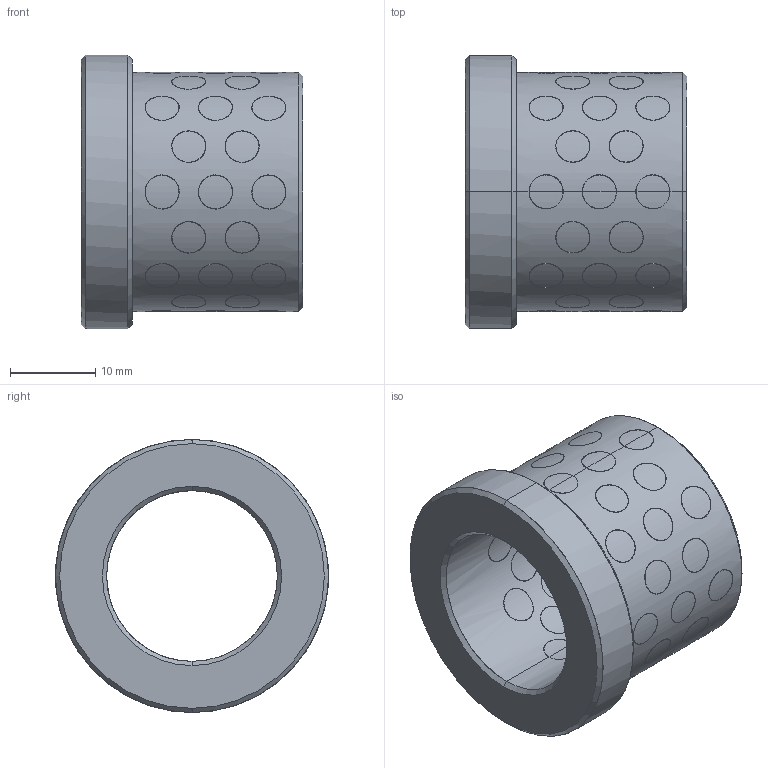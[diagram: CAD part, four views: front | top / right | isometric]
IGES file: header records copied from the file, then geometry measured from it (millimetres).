
Start section: START RECORD GO HERE.
Global section: file name: G4012026.igs; native system: DASSAULT SYSTEMES CATIA V5 R20 - www.3ds.com; preprocessor: CATIA Version 5 Release 20 ; author: r.borello; organization: CFTORINO; date: 20190624.143424; units: millimetre
Bounding box: 26 x 32 x 32 mm (x, y, z)
Surface area: 8854.2 mm2 (no closed solid volume)
Topology: 0 solids, 0 shells, 271 faces, 1180 edges, 1180 vertices
Faces by surface type: revolution 268, plane 3
